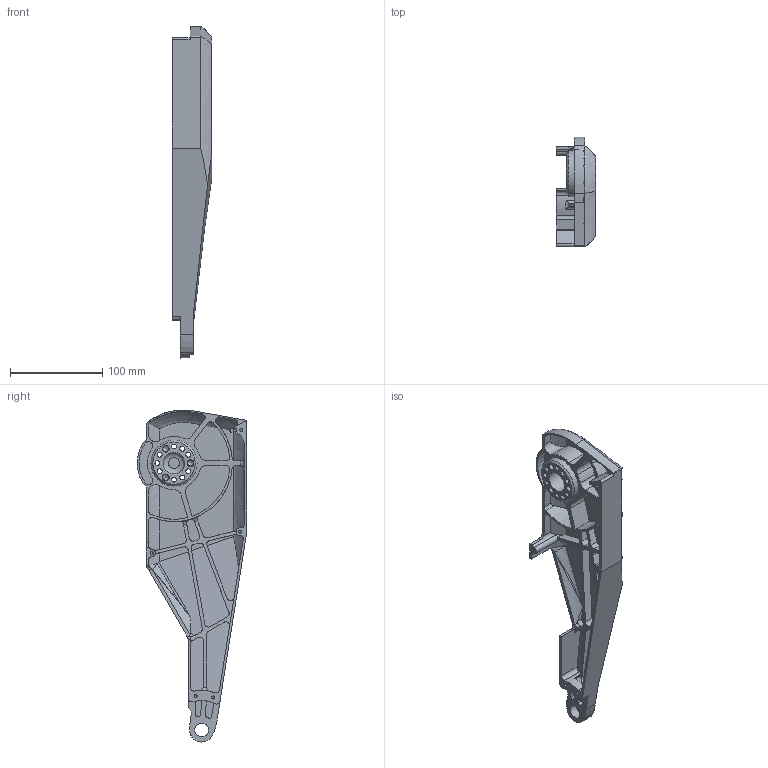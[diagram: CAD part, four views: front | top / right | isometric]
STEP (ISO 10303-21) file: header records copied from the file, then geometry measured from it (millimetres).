
FILE_DESCRIPTION(/* description */ ('STEP AP242 Edition 2','CAx-IF Rec.Pracs.---Representation and Presentation of Product Manufacturing Information (PMI)---4.0---2014-10-13','CAx-IF Rec.Pracs.---3D Tessellated Geometry---0.4---2014-09-14','2;1','CAx-IF Rec.Pracs.---User Defined Attributes---1.5---2016-08-15'),/* implementation_level */ '2;1');
FILE_NAME(/* name */ 'Assy_ForMFG - KD-D-401R',/* time_stamp */ '2026-05-15T19:56:36Z',/* author */ (''),/* organization */ (''),/* preprocessor_version */ 'ST-DEVELOPER v20',/* originating_system */ 'ONSHAPE BY PTC INC, 1.215',/* authorisation */ ' ');
FILE_SCHEMA (('AP242_MANAGED_MODEL_BASED_3D_ENGINEERING_MIM_LF { 1 0 10303 442 3 1 4 }'));
Length unit declared in the file: metre
Products named in the file (1): KD-D-401R
Bounding box: 42.75 x 118.88 x 360.74 mm (x, y, z)
Volume: 201012.6 mm3; surface area: 126082.2 mm2
Topology: 1 solids, 1 shells, 302 faces, 847 edges, 553 vertices
Faces by surface type: cylinder 152, plane 91, cone 36, bspline 22, torus 1
Full cylindrical faces by diameter (mm): 3 x1, 3.3 x5, 5.3 x9, 6.4 x3, 15 x1, 23.5 x1, 50 x1
Entity records: 10302 total; most frequent: CARTESIAN_POINT 2821, ORIENTED_EDGE 1556, DIRECTION 1525, EDGE_CURVE 778, AXIS2_PLACEMENT_3D 595, VERTEX_POINT 534, FACE_BOUND 378, EDGE_LOOP 369
